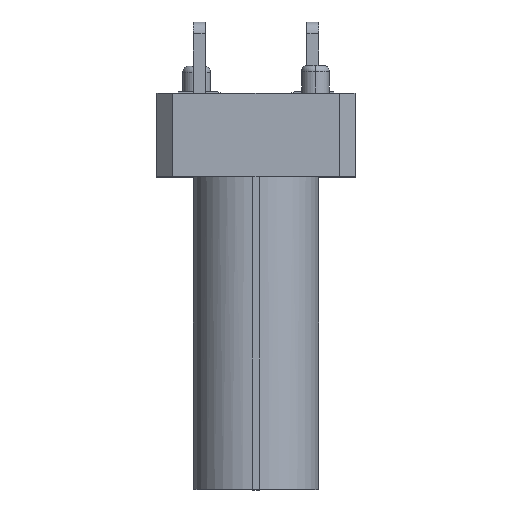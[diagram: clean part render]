
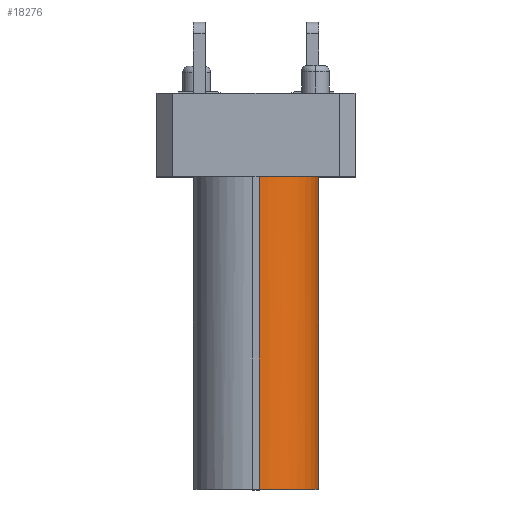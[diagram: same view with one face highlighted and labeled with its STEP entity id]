
A CAD part, top view. The second image highlights one B-rep face of the part: STEP entity #18276.
In plain terms, the highlighted cylindrical face has radius 1.5 mm (diameter 3 mm), a partial arc.
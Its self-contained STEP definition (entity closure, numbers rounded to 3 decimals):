
#925 = ORIENTED_EDGE ( 'NONE', *, *, #26812, .T. ) ;
#1020 = AXIS2_PLACEMENT_3D ( 'NONE', #27943, #8218, #23615 ) ;
#1362 = DIRECTION ( 'NONE',  ( 0.78, 0., 0.626 ) ) ;
#2041 = VECTOR ( 'NONE', #5038, 1000. ) ;
#2858 = ORIENTED_EDGE ( 'NONE', *, *, #18226, .F. ) ;
#3086 = ORIENTED_EDGE ( 'NONE', *, *, #6581, .T. ) ;
#3285 = CIRCLE ( 'NONE', #8351, 1.5 ) ;
#3349 = DIRECTION ( 'NONE',  ( 0., 1., 0. ) ) ;
#4221 = VERTEX_POINT ( 'NONE', #20794 ) ;
#5038 = DIRECTION ( 'NONE',  ( 0., -1., 0. ) ) ;
#5703 = VERTEX_POINT ( 'NONE', #23698 ) ;
#6581 = EDGE_CURVE ( 'NONE', #5703, #26078, #3285, .T. ) ;
#6944 = CARTESIAN_POINT ( 'NONE',  ( 1.58, -5.601, 2.97 ) ) ;
#7649 = EDGE_CURVE ( 'NONE', #4221, #20767, #9067, .T. ) ;
#7802 = LINE ( 'NONE', #25214, #28169 ) ;
#7993 = DIRECTION ( 'NONE',  ( 0., -1., 0. ) ) ;
#8165 = VERTEX_POINT ( 'NONE', #15479 ) ;
#8218 = DIRECTION ( 'NONE',  ( 0., -1., 0. ) ) ;
#8351 = AXIS2_PLACEMENT_3D ( 'NONE', #23253, #7993, #1362 ) ;
#8998 = ORIENTED_EDGE ( 'NONE', *, *, #21907, .T. ) ;
#9067 = LINE ( 'NONE', #20005, #2041 ) ;
#10374 = FACE_OUTER_BOUND ( 'NONE', #25240, .T. ) ;
#12271 = CARTESIAN_POINT ( 'NONE',  ( 0.08, -5.601, 2.97 ) ) ;
#12444 = AXIS2_PLACEMENT_3D ( 'NONE', #12271, #3349, #25071 ) ;
#14166 = CARTESIAN_POINT ( 'NONE',  ( 0.08, 2.299, 4.47 ) ) ;
#14674 = CIRCLE ( 'NONE', #22461, 1.5 ) ;
#15479 = CARTESIAN_POINT ( 'NONE',  ( 0.08, -5.601, 4.47 ) ) ;
#18226 = EDGE_CURVE ( 'NONE', #8165, #26078, #7802, .T. ) ;
#18276 = ADVANCED_FACE ( 'NONE', ( #10374 ), #27382, .T. ) ;
#20005 = CARTESIAN_POINT ( 'NONE',  ( 1.58, 2.299, 2.97 ) ) ;
#20767 = VERTEX_POINT ( 'NONE', #6944 ) ;
#20794 = CARTESIAN_POINT ( 'NONE',  ( 1.58, 2.299, 2.97 ) ) ;
#21023 = DIRECTION ( 'NONE',  ( 0., 1., 0. ) ) ;
#21907 = EDGE_CURVE ( 'NONE', #8165, #20767, #23462, .T. ) ;
#22461 = AXIS2_PLACEMENT_3D ( 'NONE', #23929, #26083, #26235 ) ;
#23253 = CARTESIAN_POINT ( 'NONE',  ( 0.08, 2.299, 2.97 ) ) ;
#23462 = CIRCLE ( 'NONE', #12444, 1.5 ) ;
#23615 = DIRECTION ( 'NONE',  ( 0., 0., 1. ) ) ;
#23698 = CARTESIAN_POINT ( 'NONE',  ( 1.25, 2.299, 3.909 ) ) ;
#23929 = CARTESIAN_POINT ( 'NONE',  ( 0.08, 2.299, 2.97 ) ) ;
#25071 = DIRECTION ( 'NONE',  ( 0., 0., 1. ) ) ;
#25214 = CARTESIAN_POINT ( 'NONE',  ( 0.08, -5.601, 4.47 ) ) ;
#25240 = EDGE_LOOP ( 'NONE', ( #2858, #8998, #27078, #925, #3086 ) ) ;
#26078 = VERTEX_POINT ( 'NONE', #14166 ) ;
#26083 = DIRECTION ( 'NONE',  ( 0., -1., 0. ) ) ;
#26235 = DIRECTION ( 'NONE',  ( 1., 0., 0. ) ) ;
#26812 = EDGE_CURVE ( 'NONE', #4221, #5703, #14674, .T. ) ;
#27078 = ORIENTED_EDGE ( 'NONE', *, *, #7649, .F. ) ;
#27382 = CYLINDRICAL_SURFACE ( 'NONE', #1020, 1.5 ) ;
#27943 = CARTESIAN_POINT ( 'NONE',  ( 0.08, -5.601, 2.97 ) ) ;
#28169 = VECTOR ( 'NONE', #21023, 1000. ) ;
